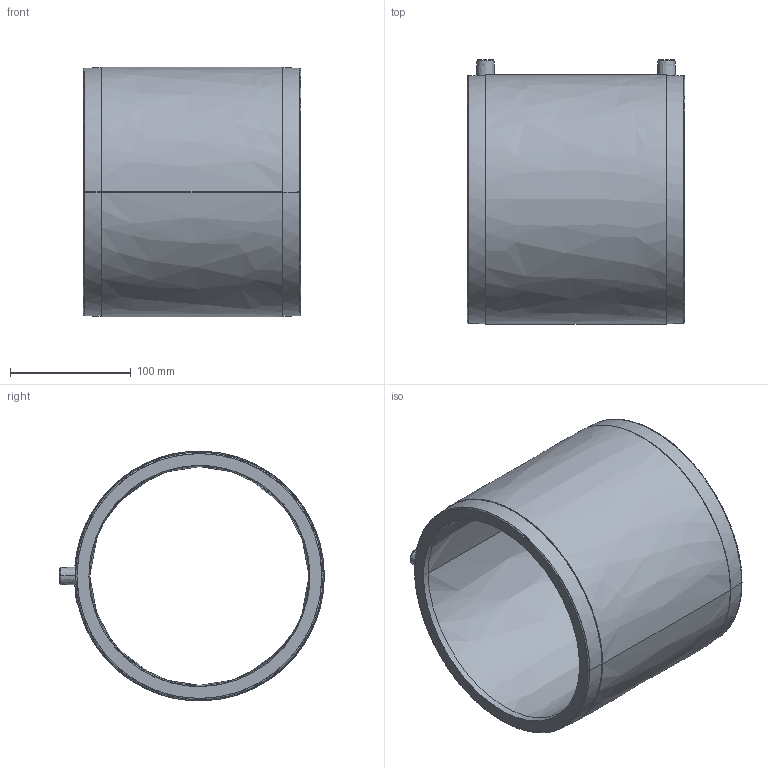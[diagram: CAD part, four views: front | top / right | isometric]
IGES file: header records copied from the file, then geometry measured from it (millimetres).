
Start section:  PTC IGES file: am_d180.igs
Global section: file name: am_d180.igs; native system: Pro/ENGINEER by Parametric Technology Corporation; preprocessor: 2011490; author: mtunjic; organization: Unknown; date: 20130729.163545; units: millimetre
Bounding box: 180 x 219.3 x 207 mm (x, y, z)
Surface area: 234188.3 mm2 (no closed solid volume)
Topology: 0 solids, 0 shells, 145 faces, 736 edges, 736 vertices
Faces by surface type: bspline 145
